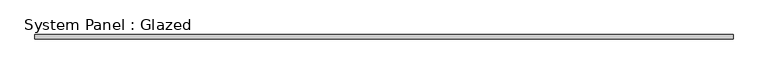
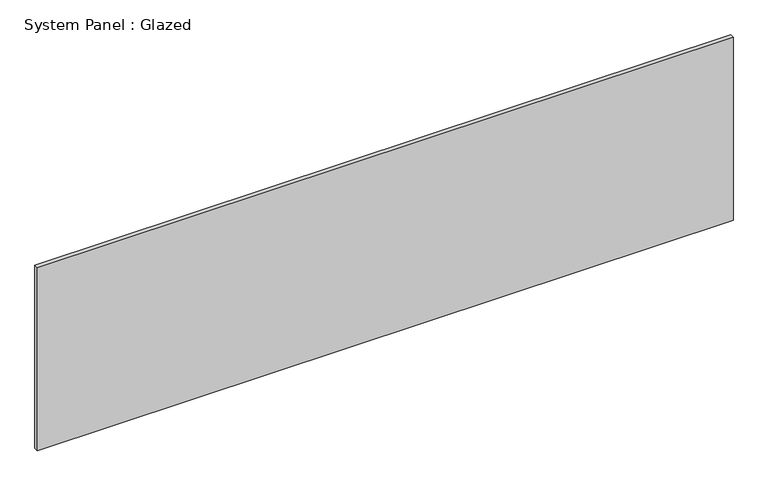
"""IFC4 building model written with IfcOpenShell, lengths in millimetres: plate geometry, System Panel : Glazed."""

from ifc_helpers import new_model, si_unit, origin, origin_with_axes, place, context, project, spatial, polyline, outline, extrude, source, transform, mapped, element, save


def system_panel_glazed_7b3729bb(model_context):
    return source(origin(), model_context, "Body", "SweptSolid", [
        extrude(outline(polyline([(1975.0, 24.5), (-1975.0, 24.5), (-1975.0, 49.5), (1975.0, 49.5), (1975.0, 24.5)])), origin_with_axes(), (0.0, 0.0, 1.0), 1098.2453384),
    ])


if __name__ == "__main__":
    model = new_model("IFC4")
    model_context = context("Model", 3, world=origin())
    ifc_project = project(units=[si_unit("LENGTHUNIT", "METRE", prefix="MILLI")], contexts=[model_context])
    site = spatial("IfcSite", under=ifc_project)
    building = spatial("IfcBuilding", under=site)
    placement = place(None, origin())
    system_panel_glazed_shape = system_panel_glazed_7b3729bb(model_context)
    element("IfcPlate", 1, ObjectType="System Panel : Glazed", at=placement, inside=building, context=model_context, shape_type="MappedRepresentation", body=[
        mapped(system_panel_glazed_shape, transform((0.0, 0.0, 0.0), x_axis=(1.0, 0.0, 0.0), y_axis=(0.0, 1.0, 0.0), z_axis=(0.0, 0.0, 1.0))),
    ])
    save(model, "model.ifc")
